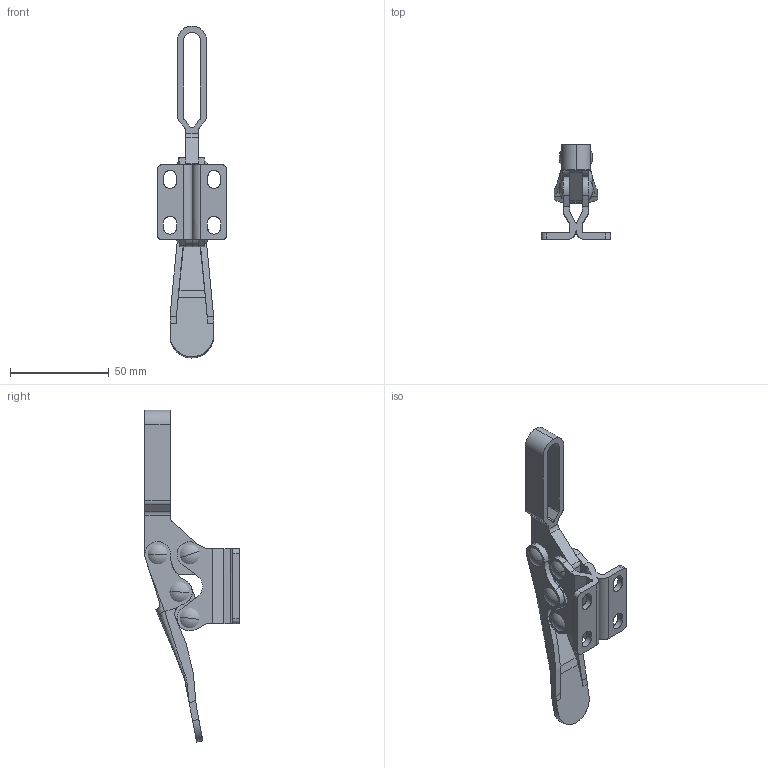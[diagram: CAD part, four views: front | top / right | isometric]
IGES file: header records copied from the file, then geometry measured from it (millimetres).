
Start section: Comment
Global section: file name: 225d.igs; native system:  By Spatial Corp.; preprocessor: XPlus PS/IGES 3.0; author: Author; organization: Title; date: 20050217.081722; units: inch
Bounding box: 35 x 47.7 x 167.74 mm (x, y, z)
Surface area: 22682.9 mm2 (no closed solid volume)
Topology: 0 solids, 0 shells, 220 faces, 1220 edges, 1202 vertices
Faces by surface type: revolution 130, extrusion 82, bspline 8
